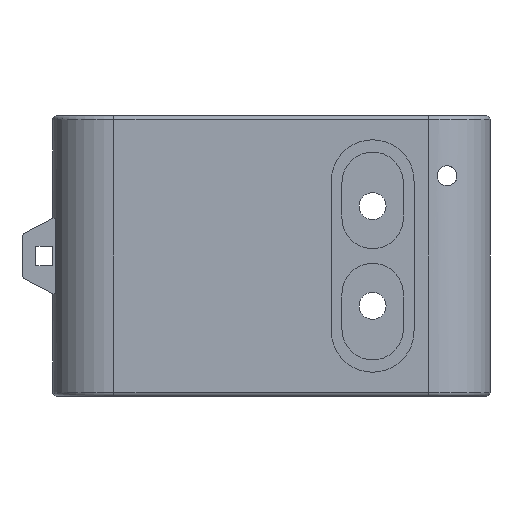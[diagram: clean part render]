
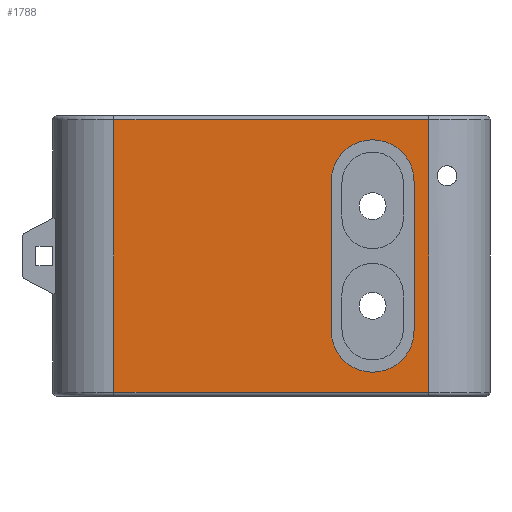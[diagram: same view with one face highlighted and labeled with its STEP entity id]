
A CAD part, front view. The second image highlights one B-rep face of the part: STEP entity #1788.
In plain terms, the highlighted planar face has unit normal (0, -1, 0).
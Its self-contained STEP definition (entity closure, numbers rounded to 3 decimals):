
#11 = CARTESIAN_POINT ( 'NONE',  ( 18.6, -7.5, -9.75 ) ) ;
#22 = VERTEX_POINT ( 'NONE', #2979 ) ;
#51 = CARTESIAN_POINT ( 'NONE',  ( 13.2, -7.5, 9.75 ) ) ;
#109 = VERTEX_POINT ( 'NONE', #1072 ) ;
#228 = CARTESIAN_POINT ( 'NONE',  ( 13.2, -7.5, -15.15 ) ) ;
#338 = ORIENTED_EDGE ( 'NONE', *, *, #1856, .F. ) ;
#420 = LINE ( 'NONE', #2284, #1414 ) ;
#427 = CARTESIAN_POINT ( 'NONE',  ( 7.8, -7.5, -9.75 ) ) ;
#476 = DIRECTION ( 'NONE',  ( 0., -1., 0. ) ) ;
#482 = ORIENTED_EDGE ( 'NONE', *, *, #2585, .T. ) ;
#491 = EDGE_LOOP ( 'NONE', ( #2329, #482, #883, #2332 ) ) ;
#537 = VECTOR ( 'NONE', #2208, 1000. ) ;
#551 = VERTEX_POINT ( 'NONE', #2582 ) ;
#554 = DIRECTION ( 'NONE',  ( 0., 0., -1. ) ) ;
#583 = FACE_OUTER_BOUND ( 'NONE', #491, .T. ) ;
#589 = EDGE_LOOP ( 'NONE', ( #338, #1152, #1456, #1196, #2729 ) ) ;
#597 = VECTOR ( 'NONE', #1305, 1000. ) ;
#614 = EDGE_CURVE ( 'NONE', #759, #864, #1206, .T. ) ;
#635 = VECTOR ( 'NONE', #2266, 1000. ) ;
#712 = VERTEX_POINT ( 'NONE', #1996 ) ;
#759 = VERTEX_POINT ( 'NONE', #228 ) ;
#782 = LINE ( 'NONE', #2864, #1422 ) ;
#864 = VERTEX_POINT ( 'NONE', #11 ) ;
#883 = ORIENTED_EDGE ( 'NONE', *, *, #2659, .F. ) ;
#901 = PLANE ( 'NONE',  #2955 ) ;
#917 = LINE ( 'NONE', #2719, #597 ) ;
#990 = DIRECTION ( 'NONE',  ( 0., 0., 1. ) ) ;
#1072 = CARTESIAN_POINT ( 'NONE',  ( 7.8, -7.5, -9.75 ) ) ;
#1103 = EDGE_CURVE ( 'NONE', #2275, #2121, #420, .T. ) ;
#1152 = ORIENTED_EDGE ( 'NONE', *, *, #1664, .F. ) ;
#1168 = LINE ( 'NONE', #427, #635 ) ;
#1171 = CARTESIAN_POINT ( 'NONE',  ( 13.2, -7.5, -9.75 ) ) ;
#1172 = EDGE_CURVE ( 'NONE', #109, #759, #2770, .T. ) ;
#1196 = ORIENTED_EDGE ( 'NONE', *, *, #1172, .F. ) ;
#1206 = CIRCLE ( 'NONE', #1857, 5.4 ) ;
#1277 = CARTESIAN_POINT ( 'NONE',  ( -20.516, -7.5, -18.25 ) ) ;
#1305 = DIRECTION ( 'NONE',  ( 0., 0., 1. ) ) ;
#1342 = DIRECTION ( 'NONE',  ( 0., -1., 0. ) ) ;
#1344 = CARTESIAN_POINT ( 'NONE',  ( 7.8, -7.5, 9.75 ) ) ;
#1393 = CIRCLE ( 'NONE', #2980, 5.4 ) ;
#1399 = VECTOR ( 'NONE', #2018, 1000. ) ;
#1414 = VECTOR ( 'NONE', #2699, 1000. ) ;
#1422 = VECTOR ( 'NONE', #990, 1000. ) ;
#1426 = AXIS2_PLACEMENT_3D ( 'NONE', #2673, #1342, #2273 ) ;
#1450 = CARTESIAN_POINT ( 'NONE',  ( 20.516, -7.5, -17.75 ) ) ;
#1456 = ORIENTED_EDGE ( 'NONE', *, *, #614, .F. ) ;
#1472 = LINE ( 'NONE', #3015, #1399 ) ;
#1505 = FACE_BOUND ( 'NONE', #589, .T. ) ;
#1511 = EDGE_CURVE ( 'NONE', #2114, #109, #1168, .T. ) ;
#1587 = DIRECTION ( 'NONE',  ( 0., 0., -1. ) ) ;
#1664 = EDGE_CURVE ( 'NONE', #864, #22, #917, .T. ) ;
#1788 = ADVANCED_FACE ( 'NONE', ( #1505, #583 ), #901, .T. ) ;
#1808 = DIRECTION ( 'NONE',  ( 0., -1., 0. ) ) ;
#1809 = DIRECTION ( 'NONE',  ( 0., -1., 0. ) ) ;
#1823 = DIRECTION ( 'NONE',  ( 0., 0., -1. ) ) ;
#1856 = EDGE_CURVE ( 'NONE', #22, #2114, #1393, .T. ) ;
#1857 = AXIS2_PLACEMENT_3D ( 'NONE', #1171, #1808, #1587 ) ;
#1996 = CARTESIAN_POINT ( 'NONE',  ( -20.516, -7.5, 17.75 ) ) ;
#2018 = DIRECTION ( 'NONE',  ( -1., 0., 0. ) ) ;
#2114 = VERTEX_POINT ( 'NONE', #1344 ) ;
#2121 = VERTEX_POINT ( 'NONE', #1450 ) ;
#2208 = DIRECTION ( 'NONE',  ( 0., 0., 1. ) ) ;
#2266 = DIRECTION ( 'NONE',  ( 0., 0., -1. ) ) ;
#2273 = DIRECTION ( 'NONE',  ( 0., 0., -1. ) ) ;
#2275 = VERTEX_POINT ( 'NONE', #2934 ) ;
#2284 = CARTESIAN_POINT ( 'NONE',  ( -20.516, -7.5, -17.75 ) ) ;
#2329 = ORIENTED_EDGE ( 'NONE', *, *, #2412, .T. ) ;
#2332 = ORIENTED_EDGE ( 'NONE', *, *, #1103, .T. ) ;
#2367 = LINE ( 'NONE', #2747, #537 ) ;
#2412 = EDGE_CURVE ( 'NONE', #2121, #551, #782, .T. ) ;
#2582 = CARTESIAN_POINT ( 'NONE',  ( 20.516, -7.5, 17.75 ) ) ;
#2585 = EDGE_CURVE ( 'NONE', #551, #712, #1472, .T. ) ;
#2659 = EDGE_CURVE ( 'NONE', #2275, #712, #2367, .T. ) ;
#2673 = CARTESIAN_POINT ( 'NONE',  ( 13.2, -7.5, -9.75 ) ) ;
#2699 = DIRECTION ( 'NONE',  ( 1., 0., 0. ) ) ;
#2719 = CARTESIAN_POINT ( 'NONE',  ( 18.6, -7.5, 9.75 ) ) ;
#2729 = ORIENTED_EDGE ( 'NONE', *, *, #1511, .F. ) ;
#2747 = CARTESIAN_POINT ( 'NONE',  ( -20.516, -7.5, -18.25 ) ) ;
#2770 = CIRCLE ( 'NONE', #1426, 5.4 ) ;
#2864 = CARTESIAN_POINT ( 'NONE',  ( 20.516, -7.5, -18.25 ) ) ;
#2934 = CARTESIAN_POINT ( 'NONE',  ( -20.516, -7.5, -17.75 ) ) ;
#2955 = AXIS2_PLACEMENT_3D ( 'NONE', #1277, #1809, #1823 ) ;
#2979 = CARTESIAN_POINT ( 'NONE',  ( 18.6, -7.5, 9.75 ) ) ;
#2980 = AXIS2_PLACEMENT_3D ( 'NONE', #51, #476, #554 ) ;
#3015 = CARTESIAN_POINT ( 'NONE',  ( -20.516, -7.5, 17.75 ) ) ;
